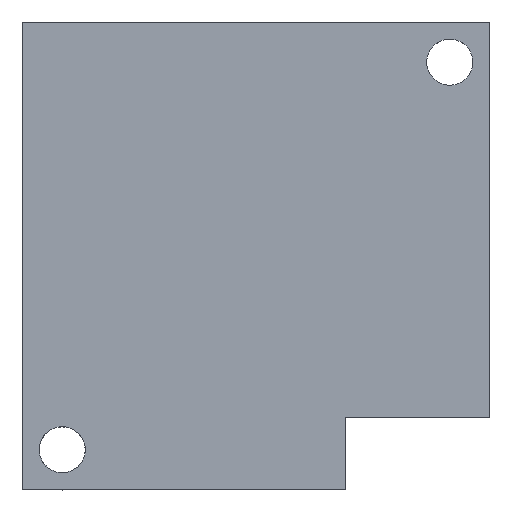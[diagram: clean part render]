
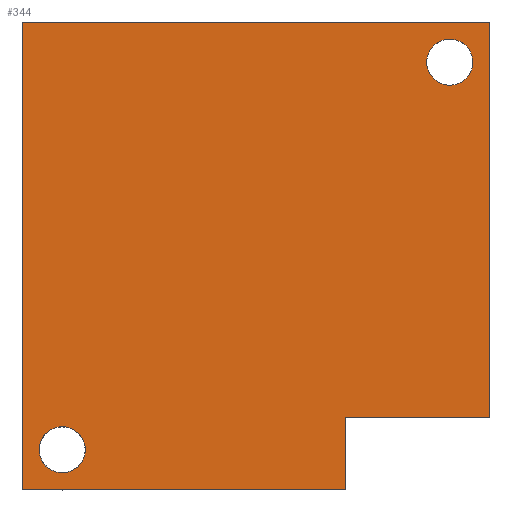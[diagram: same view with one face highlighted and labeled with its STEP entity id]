
A CAD part, top view. The second image highlights one B-rep face of the part: STEP entity #344.
In plain terms, the highlighted planar face has unit normal (0, 0, 1).
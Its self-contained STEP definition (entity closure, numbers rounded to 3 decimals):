
#4 = VECTOR ( 'NONE', #596, 1000. ) ;
#22 = ORIENTED_EDGE ( 'NONE', *, *, #70, .T. ) ;
#29 = EDGE_CURVE ( 'NONE', #621, #214, #177, .T. ) ;
#36 = CARTESIAN_POINT ( 'NONE',  ( -11.652, 11.652, 1. ) ) ;
#50 = CARTESIAN_POINT ( 'NONE',  ( 10.802, 9.652, 1. ) ) ;
#55 = EDGE_CURVE ( 'NONE', #400, #102, #256, .T. ) ;
#66 = AXIS2_PLACEMENT_3D ( 'NONE', #414, #306, #353 ) ;
#70 = EDGE_CURVE ( 'NONE', #348, #521, #394, .T. ) ;
#72 = CARTESIAN_POINT ( 'NONE',  ( 9.652, 9.652, 1. ) ) ;
#74 = ORIENTED_EDGE ( 'NONE', *, *, #55, .F. ) ;
#82 = CIRCLE ( 'NONE', #307, 1.15 ) ;
#83 = ORIENTED_EDGE ( 'NONE', *, *, #560, .T. ) ;
#90 = EDGE_CURVE ( 'NONE', #282, #469, #488, .T. ) ;
#99 = LINE ( 'NONE', #162, #566 ) ;
#102 = VERTEX_POINT ( 'NONE', #50 ) ;
#110 = VERTEX_POINT ( 'NONE', #543 ) ;
#127 = DIRECTION ( 'NONE',  ( 1., 0., 0. ) ) ;
#128 = PLANE ( 'NONE',  #66 ) ;
#130 = FACE_BOUND ( 'NONE', #507, .T. ) ;
#131 = EDGE_CURVE ( 'NONE', #521, #110, #570, .T. ) ;
#139 = ORIENTED_EDGE ( 'NONE', *, *, #90, .T. ) ;
#140 = VECTOR ( 'NONE', #390, 1000. ) ;
#143 = ORIENTED_EDGE ( 'NONE', *, *, #131, .T. ) ;
#162 = CARTESIAN_POINT ( 'NONE',  ( 4.452, -8.052, 1. ) ) ;
#176 = EDGE_CURVE ( 'NONE', #110, #282, #392, .T. ) ;
#177 = CIRCLE ( 'NONE', #247, 1.15 ) ;
#183 = EDGE_CURVE ( 'NONE', #214, #621, #535, .T. ) ;
#196 = CARTESIAN_POINT ( 'NONE',  ( 4.452, -8.052, 1. ) ) ;
#202 = CARTESIAN_POINT ( 'NONE',  ( -11.652, -11.652, 1. ) ) ;
#209 = ORIENTED_EDGE ( 'NONE', *, *, #698, .F. ) ;
#210 = DIRECTION ( 'NONE',  ( 1., 0., 0. ) ) ;
#214 = VERTEX_POINT ( 'NONE', #497 ) ;
#225 = ORIENTED_EDGE ( 'NONE', *, *, #664, .T. ) ;
#232 = AXIS2_PLACEMENT_3D ( 'NONE', #374, #440, #388 ) ;
#247 = AXIS2_PLACEMENT_3D ( 'NONE', #272, #548, #210 ) ;
#256 = CIRCLE ( 'NONE', #359, 1.15 ) ;
#257 = CARTESIAN_POINT ( 'NONE',  ( 4.452, -11.652, 1. ) ) ;
#272 = CARTESIAN_POINT ( 'NONE',  ( -9.652, -9.652, 1. ) ) ;
#282 = VERTEX_POINT ( 'NONE', #257 ) ;
#285 = FACE_BOUND ( 'NONE', #617, .T. ) ;
#300 = CARTESIAN_POINT ( 'NONE',  ( 11.652, 11.652, 1. ) ) ;
#306 = DIRECTION ( 'NONE',  ( 0., 0., 1. ) ) ;
#307 = AXIS2_PLACEMENT_3D ( 'NONE', #72, #464, #127 ) ;
#317 = ORIENTED_EDGE ( 'NONE', *, *, #29, .F. ) ;
#321 = DIRECTION ( 'NONE',  ( 1., 0., 0. ) ) ;
#327 = CARTESIAN_POINT ( 'NONE',  ( -10.802, -9.652, 1. ) ) ;
#344 = ADVANCED_FACE ( 'NONE', ( #285, #429, #130 ), #128, .T. ) ;
#348 = VERTEX_POINT ( 'NONE', #300 ) ;
#353 = DIRECTION ( 'NONE',  ( 1., 0., 0. ) ) ;
#359 = AXIS2_PLACEMENT_3D ( 'NONE', #380, #648, #321 ) ;
#374 = CARTESIAN_POINT ( 'NONE',  ( -9.652, -9.652, 1. ) ) ;
#375 = CARTESIAN_POINT ( 'NONE',  ( 11.652, 11.652, 1. ) ) ;
#380 = CARTESIAN_POINT ( 'NONE',  ( 9.652, 9.652, 1. ) ) ;
#383 = ORIENTED_EDGE ( 'NONE', *, *, #183, .F. ) ;
#388 = DIRECTION ( 'NONE',  ( 1., 0., 0. ) ) ;
#390 = DIRECTION ( 'NONE',  ( 0., -1., 0. ) ) ;
#392 = LINE ( 'NONE', #202, #677 ) ;
#394 = LINE ( 'NONE', #36, #458 ) ;
#396 = VERTEX_POINT ( 'NONE', #675 ) ;
#400 = VERTEX_POINT ( 'NONE', #463 ) ;
#408 = VECTOR ( 'NONE', #504, 1000. ) ;
#414 = CARTESIAN_POINT ( 'NONE',  ( 0., 0., 1. ) ) ;
#429 = FACE_OUTER_BOUND ( 'NONE', #641, .T. ) ;
#440 = DIRECTION ( 'NONE',  ( 0., 0., 1. ) ) ;
#450 = CARTESIAN_POINT ( 'NONE',  ( -11.652, 11.652, 1. ) ) ;
#455 = LINE ( 'NONE', #375, #4 ) ;
#458 = VECTOR ( 'NONE', #486, 1000. ) ;
#463 = CARTESIAN_POINT ( 'NONE',  ( 8.502, 9.652, 1. ) ) ;
#464 = DIRECTION ( 'NONE',  ( 0., 0., 1. ) ) ;
#469 = VERTEX_POINT ( 'NONE', #196 ) ;
#486 = DIRECTION ( 'NONE',  ( -1., 0., 0. ) ) ;
#488 = LINE ( 'NONE', #710, #408 ) ;
#497 = CARTESIAN_POINT ( 'NONE',  ( -8.502, -9.652, 1. ) ) ;
#500 = DIRECTION ( 'NONE',  ( 1., 0., 0. ) ) ;
#504 = DIRECTION ( 'NONE',  ( 0., 1., 0. ) ) ;
#507 = EDGE_LOOP ( 'NONE', ( #317, #383 ) ) ;
#521 = VERTEX_POINT ( 'NONE', #618 ) ;
#535 = CIRCLE ( 'NONE', #232, 1.15 ) ;
#543 = CARTESIAN_POINT ( 'NONE',  ( -11.652, -11.652, 1. ) ) ;
#548 = DIRECTION ( 'NONE',  ( 0., 0., 1. ) ) ;
#560 = EDGE_CURVE ( 'NONE', #396, #348, #455, .T. ) ;
#566 = VECTOR ( 'NONE', #605, 1000. ) ;
#570 = LINE ( 'NONE', #450, #140 ) ;
#596 = DIRECTION ( 'NONE',  ( 0., 1., 0. ) ) ;
#605 = DIRECTION ( 'NONE',  ( 1., 0., 0. ) ) ;
#617 = EDGE_LOOP ( 'NONE', ( #74, #209 ) ) ;
#618 = CARTESIAN_POINT ( 'NONE',  ( -11.652, 11.652, 1. ) ) ;
#621 = VERTEX_POINT ( 'NONE', #327 ) ;
#641 = EDGE_LOOP ( 'NONE', ( #143, #656, #139, #225, #83, #22 ) ) ;
#648 = DIRECTION ( 'NONE',  ( 0., 0., 1. ) ) ;
#656 = ORIENTED_EDGE ( 'NONE', *, *, #176, .T. ) ;
#664 = EDGE_CURVE ( 'NONE', #469, #396, #99, .T. ) ;
#675 = CARTESIAN_POINT ( 'NONE',  ( 11.652, -8.052, 1. ) ) ;
#677 = VECTOR ( 'NONE', #500, 1000. ) ;
#698 = EDGE_CURVE ( 'NONE', #102, #400, #82, .T. ) ;
#710 = CARTESIAN_POINT ( 'NONE',  ( 4.452, -11.652, 1. ) ) ;
